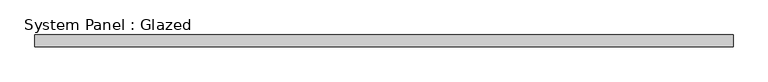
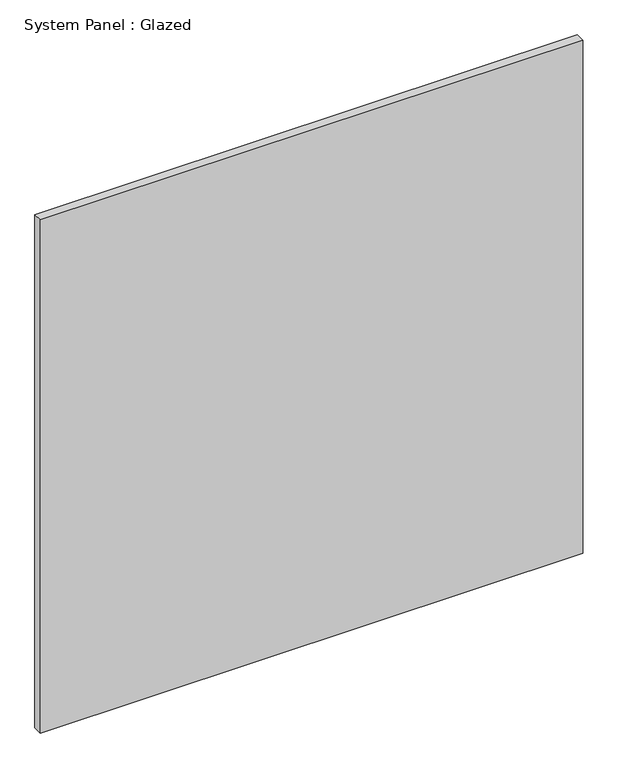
"""IFC4 building model written with IfcOpenShell, lengths in millimetres: plate geometry, System Panel : Glazed."""

from ifc_helpers import new_model, si_unit, origin, origin_with_axes, place, context, project, spatial, polyline, outline, extrude, source, transform, mapped, element, save


def system_panel_glazed_62d989f2(model_context):
    return source(origin(), model_context, "Body", "SweptSolid", [
        extrude(outline(polyline([(724.5, 24.5), (-724.5, 24.5), (-724.5, 49.5), (724.5, 49.5), (724.5, 24.5)])), origin_with_axes(), (0.0, 0.0, 1.0), 1449.0),
    ])


if __name__ == "__main__":
    model = new_model("IFC4")
    model_context = context("Model", 3, world=origin())
    ifc_project = project(units=[si_unit("LENGTHUNIT", "METRE", prefix="MILLI")], contexts=[model_context])
    site = spatial("IfcSite", under=ifc_project)
    building = spatial("IfcBuilding", under=site)
    placement = place(None, origin())
    system_panel_glazed_shape = system_panel_glazed_62d989f2(model_context)
    element("IfcPlate", 1, ObjectType="System Panel : Glazed", at=placement, inside=building, context=model_context, shape_type="MappedRepresentation", body=[
        mapped(system_panel_glazed_shape, transform((0.0, 0.0, 0.0), x_axis=(1.0, 0.0, 0.0), y_axis=(0.0, 1.0, 0.0), z_axis=(0.0, 0.0, 1.0))),
    ])
    save(model, "model.ifc")
